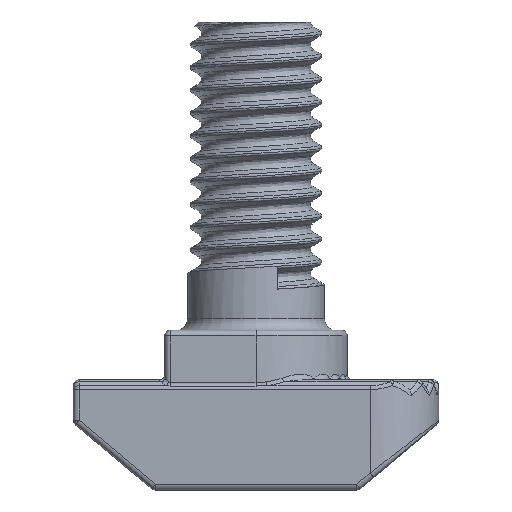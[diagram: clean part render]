
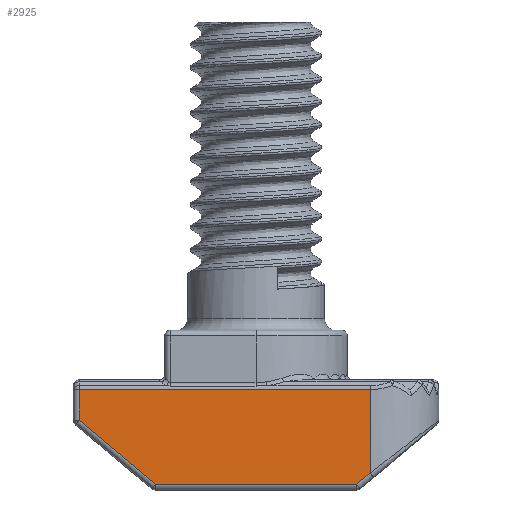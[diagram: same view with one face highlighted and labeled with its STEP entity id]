
A CAD part, front view. The second image highlights one B-rep face of the part: STEP entity #2925.
In plain terms, the highlighted planar face has unit normal (0, -1, 0).
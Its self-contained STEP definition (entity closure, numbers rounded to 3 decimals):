
#45 = VECTOR ( 'NONE', #1522, 1000. ) ;
#86 = DIRECTION ( 'NONE',  ( 0., 0., -1. ) ) ;
#154 = CARTESIAN_POINT ( 'NONE',  ( -3.409, -3.353, 0.25 ) ) ;
#484 = CARTESIAN_POINT ( 'NONE',  ( -6.75, -3.353, 3.053 ) ) ;
#510 = EDGE_CURVE ( 'NONE', #2648, #8336, #1560, .T. ) ;
#552 = CARTESIAN_POINT ( 'NONE',  ( -7., -3.353, 4.405 ) ) ;
#954 = VECTOR ( 'NONE', #5898, 1000. ) ;
#1086 = EDGE_CURVE ( 'NONE', #3202, #8935, #10509, .T. ) ;
#1522 = DIRECTION ( 'NONE',  ( -1., 0., 0. ) ) ;
#1560 = LINE ( 'NONE', #10337, #11594 ) ;
#1671 = DIRECTION ( 'NONE',  ( 0., 0., 1. ) ) ;
#2330 = CARTESIAN_POINT ( 'NONE',  ( -6.75, -3.353, 4.405 ) ) ;
#2577 = DIRECTION ( 'NONE',  ( 0.766, 0., 0.643 ) ) ;
#2648 = VERTEX_POINT ( 'NONE', #11616 ) ;
#2656 = LINE ( 'NONE', #6642, #4922 ) ;
#2861 = ORIENTED_EDGE ( 'NONE', *, *, #9291, .T. ) ;
#2925 = ADVANCED_FACE ( 'NONE', ( #4027 ), #6509, .F. ) ;
#2927 = VECTOR ( 'NONE', #6032, 1000. ) ;
#3202 = VERTEX_POINT ( 'NONE', #2330 ) ;
#3610 = EDGE_CURVE ( 'NONE', #6610, #2648, #2656, .T. ) ;
#3690 = ORIENTED_EDGE ( 'NONE', *, *, #510, .T. ) ;
#4027 = FACE_OUTER_BOUND ( 'NONE', #5742, .T. ) ;
#4292 = VERTEX_POINT ( 'NONE', #8890 ) ;
#4332 = EDGE_CURVE ( 'NONE', #4292, #3202, #5524, .T. ) ;
#4922 = VECTOR ( 'NONE', #12470, 1000. ) ;
#5483 = CARTESIAN_POINT ( 'NONE',  ( -7., -3.353, 4.5 ) ) ;
#5524 = LINE ( 'NONE', #552, #45 ) ;
#5742 = EDGE_LOOP ( 'NONE', ( #12416, #3690, #9963, #7398, #9706, #2861 ) ) ;
#5891 = CARTESIAN_POINT ( 'NONE',  ( -6.75, -3.353, 4.5 ) ) ;
#5898 = DIRECTION ( 'NONE',  ( 0.766, 0., -0.643 ) ) ;
#6032 = DIRECTION ( 'NONE',  ( 0., 0., 1. ) ) ;
#6365 = CARTESIAN_POINT ( 'NONE',  ( 6., -3.353, 0.746 ) ) ;
#6509 = PLANE ( 'NONE',  #12138 ) ;
#6610 = VERTEX_POINT ( 'NONE', #154 ) ;
#6642 = CARTESIAN_POINT ( 'NONE',  ( -7., -3.353, 0.25 ) ) ;
#7398 = ORIENTED_EDGE ( 'NONE', *, *, #4332, .T. ) ;
#7489 = DIRECTION ( 'NONE',  ( 0., 1., 0. ) ) ;
#7935 = VECTOR ( 'NONE', #86, 1000. ) ;
#8101 = LINE ( 'NONE', #11868, #2927 ) ;
#8336 = VERTEX_POINT ( 'NONE', #6365 ) ;
#8801 = CARTESIAN_POINT ( 'NONE',  ( -3.339, -3.353, 0.192 ) ) ;
#8890 = CARTESIAN_POINT ( 'NONE',  ( 6., -3.353, 4.405 ) ) ;
#8935 = VERTEX_POINT ( 'NONE', #484 ) ;
#9291 = EDGE_CURVE ( 'NONE', #8935, #6610, #11288, .T. ) ;
#9380 = EDGE_CURVE ( 'NONE', #8336, #4292, #8101, .T. ) ;
#9706 = ORIENTED_EDGE ( 'NONE', *, *, #1086, .T. ) ;
#9963 = ORIENTED_EDGE ( 'NONE', *, *, #9380, .T. ) ;
#10337 = CARTESIAN_POINT ( 'NONE',  ( 5.839, -3.353, 0.611 ) ) ;
#10509 = LINE ( 'NONE', #5891, #7935 ) ;
#11288 = LINE ( 'NONE', #8801, #954 ) ;
#11594 = VECTOR ( 'NONE', #2577, 1000. ) ;
#11616 = CARTESIAN_POINT ( 'NONE',  ( 5.409, -3.353, 0.25 ) ) ;
#11868 = CARTESIAN_POINT ( 'NONE',  ( 6., -3.353, 4.5 ) ) ;
#12138 = AXIS2_PLACEMENT_3D ( 'NONE', #5483, #7489, #1671 ) ;
#12416 = ORIENTED_EDGE ( 'NONE', *, *, #3610, .T. ) ;
#12470 = DIRECTION ( 'NONE',  ( 1., 0., 0. ) ) ;
